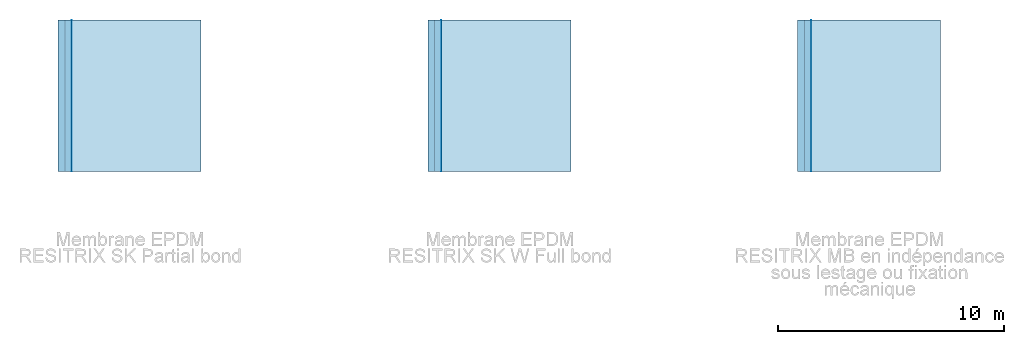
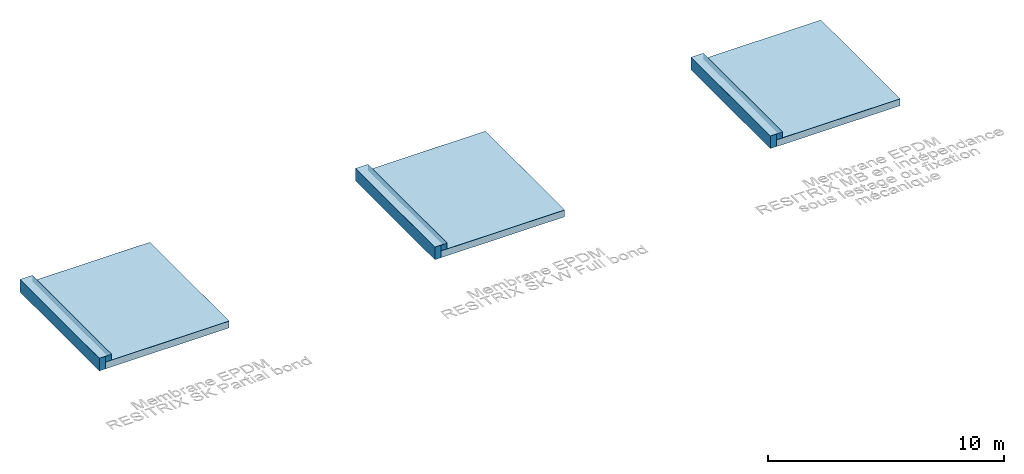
# One storey, incomplete: 15 slabs, 12 walls, 15 elements without a shape of their own.
"""IFC2X3 building model written with IfcOpenShell, lengths in millimetres."""

from ifc_helpers import new_model, entity, si_unit, converted_unit, derived_unit, direction, frame, frame_2d, origin, place, context, subcontext, project, spatial, rectangle, extrude, clip, halfspace, material, layer, layer_set, layer_usage, type_object, element, aggregate, save


model = new_model("IFC2X3")

# Units and contexts
model_context = context("Model", 3, precision=0.01, world=origin(), true_north=direction((6.12303176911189e-17, 1.0)))
body_context = subcontext(model_context, "Body", "Model", "MODEL_VIEW")
ifc_project = project(units=[si_unit("LENGTHUNIT", "METRE", prefix="MILLI"), si_unit("AREAUNIT", "SQUARE_METRE"), si_unit("VOLUMEUNIT", "CUBIC_METRE"), converted_unit("PLANEANGLEUNIT", "DEGREE", entity("IfcRatioMeasure", 0.0174532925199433), si_unit("PLANEANGLEUNIT", "RADIAN"), dimensions=[0, 0, 0, 0, 0, 0, 0]), si_unit("MASSUNIT", "GRAM", prefix="KILO"), derived_unit("MASSDENSITYUNIT", [(si_unit("MASSUNIT", "GRAM", prefix="KILO"), 1), (si_unit("LENGTHUNIT", "METRE"), -3)]), derived_unit("MOMENTOFINERTIAUNIT", [(si_unit("LENGTHUNIT", "METRE"), 4)]), si_unit("TIMEUNIT", "SECOND"), si_unit("FREQUENCYUNIT", "HERTZ"), si_unit("THERMODYNAMICTEMPERATUREUNIT", "DEGREE_CELSIUS"), derived_unit("THERMALTRANSMITTANCEUNIT", [(si_unit("MASSUNIT", "GRAM", prefix="KILO"), 1), (si_unit("THERMODYNAMICTEMPERATUREUNIT", "KELVIN"), -1), (si_unit("TIMEUNIT", "SECOND"), -3)]), derived_unit("VOLUMETRICFLOWRATEUNIT", [(si_unit("LENGTHUNIT", "METRE"), 3), (si_unit("TIMEUNIT", "SECOND"), -1)]), si_unit("ELECTRICCURRENTUNIT", "AMPERE"), si_unit("ELECTRICVOLTAGEUNIT", "VOLT"), si_unit("POWERUNIT", "WATT"), si_unit("FORCEUNIT", "NEWTON", prefix="KILO"), si_unit("ILLUMINANCEUNIT", "LUX"), si_unit("LUMINOUSFLUXUNIT", "LUMEN"), si_unit("LUMINOUSINTENSITYUNIT", "CANDELA"), derived_unit("USERDEFINED", [(si_unit("MASSUNIT", "GRAM", prefix="KILO"), -1), (si_unit("LENGTHUNIT", "METRE"), -2), (si_unit("TIMEUNIT", "SECOND"), 3), (si_unit("LUMINOUSFLUXUNIT", "LUMEN"), 1)]), derived_unit("LINEARVELOCITYUNIT", [(si_unit("LENGTHUNIT", "METRE"), 1), (si_unit("TIMEUNIT", "SECOND"), -1)]), si_unit("PRESSUREUNIT", "PASCAL"), derived_unit("USERDEFINED", [(si_unit("LENGTHUNIT", "METRE"), -2), (si_unit("MASSUNIT", "GRAM", prefix="KILO"), 1), (si_unit("TIMEUNIT", "SECOND"), -2)]), derived_unit("LINEARFORCEUNIT", [(si_unit("MASSUNIT", "GRAM", prefix="KILO"), 1), (si_unit("LENGTHUNIT", "METRE"), 1), (si_unit("TIMEUNIT", "SECOND"), -2), (si_unit("LENGTHUNIT", "METRE"), -1)]), derived_unit("PLANARFORCEUNIT", [(si_unit("MASSUNIT", "GRAM", prefix="KILO"), 1), (si_unit("LENGTHUNIT", "METRE"), 1), (si_unit("TIMEUNIT", "SECOND"), -2), (si_unit("LENGTHUNIT", "METRE"), -2)])], contexts=[model_context])

# Site, building, storey
site_placement = place(None, origin())
site = spatial("IfcSite", under=ifc_project, at=site_placement, Name="Default", CompositionType="ELEMENT")
building_placement = place(site_placement, origin())
building = spatial("IfcBuilding", under=site, at=building_placement, CompositionType="ELEMENT")
storey_placement = place(building_placement, origin())
storey = spatial("IfcBuildingStorey", under=building, at=storey_placement, Name="Niveau 1", CompositionType="ELEMENT", Elevation=0.0)

# Roof, slab
roof_1_placement = place(storey_placement, frame((6837.35536818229, 5160.49131894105, 135.2)))
roof_1 = element("IfcRoof", 1, at=roof_1_placement, inside=storey, Name="Toit de base:Primer d’adhérence FG35", ObjectType="Toit de base:Primer d’adhérence FG35", ShapeType="NOTDEFINED")
ifc_material_1 = material(Name="Primer d’adhérence FG35")
ifc_layer_1 = layer(ifc_material_1, 0.8)
ifc_layer_set_1 = layer_set([ifc_layer_1], Name="Toit de base:Primer d’adhérence FG35")
slab_type_1 = type_object("IfcSlabType", Name="Toit de base:Primer d’adhérence FG35", PredefinedType="ROOF")
slab_1_placement = place(roof_1_placement, origin())
slab_1 = element("IfcSlab", 2, at=slab_1_placement, type_object=slab_type_1, material=ifc_layer_set_1, Name="Toit de base:Primer d’adhérence FG35", ObjectType="Toit de base:Primer d’adhérence FG35", PredefinedType="ROOF", context=body_context, shape_type="SweptSolid", body=[
    extrude(rectangle(XDim=6714.46153846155, YDim=5746.95000000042, at=frame_2d((6.82121026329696e-13, 0.0), x_axis=(0.0, 1.0))), frame((2873.47500000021, 3357.23076923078, 0.0)), (0.0, 0.0, 1.0), 0.800000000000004),
])
aggregate(roof_1, [slab_1])

roof_2_placement = place(storey_placement, frame((6537.35536818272, 5160.49131894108, -215.6)))
roof_2 = element("IfcRoof", 3, at=roof_2_placement, inside=storey, Name="Toit de base:Toit 1", ObjectType="Toit de base:Toit 1", ShapeType="NOTDEFINED")
ifc_material_2 = material(Name="Isolation")
ifc_layer_2 = layer(ifc_material_2, 100.0)
ifc_material_3 = material(Name="Pare vapeur")
ifc_layer_3 = layer(ifc_material_3, 0.8)
ifc_material_4 = material(Name="Béton de pente")
ifc_layer_4 = layer(ifc_material_4, 50.0)
ifc_material_5 = material(Name="Structure porteuse")
ifc_layer_5 = layer(ifc_material_5, 200.0)
ifc_layer_set_2 = layer_set([ifc_layer_2, ifc_layer_3, ifc_layer_4, ifc_layer_5], Name="Toit de base:Toit 1")
slab_type_2 = type_object("IfcSlabType", Name="Toit de base:Toit 1", PredefinedType="ROOF")
slab_2_placement = place(roof_2_placement, origin())
slab_2 = element("IfcSlab", 4, at=slab_2_placement, type_object=slab_type_2, material=ifc_layer_set_2, Name="Toit de base:Toit 1", ObjectType="Toit de base:Toit 1", PredefinedType="ROOF", context=body_context, shape_type="SweptSolid", body=[
    extrude(rectangle(XDim=6046.95, YDim=6714.46153846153, at=frame_2d((-1.13686837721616e-12, 4.54747350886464e-13), x_axis=(1.0, 0.0))), frame((3023.475, 3357.23076923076, 0.0)), (0.0, 0.0, 1.0), 350.8),
])
aggregate(roof_2, [slab_2])

roof_3_placement = place(storey_placement, frame((6237.35536818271, 5160.49131894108, 436.0)))
roof_3 = element("IfcRoof", 5, at=roof_3_placement, inside=storey, Name="Toit de base:Membrane RESITRIX SK W Full bond", ObjectType="Toit de base:Membrane RESITRIX SK W Full bond", ShapeType="NOTDEFINED")
ifc_material_6 = material(Name="Caoutchouc EPDM SK W Full bond")
ifc_layer_6 = layer(ifc_material_6, 1.5)
ifc_material_7 = material(Name="Armature en fibre de verre")
ifc_layer_7 = layer(ifc_material_7, 1.0)
ifc_layer_set_3 = layer_set([ifc_layer_6, ifc_layer_7], Name="Toit de base:Membrane RESITRIX SK W Full bond")
slab_type_3 = type_object("IfcSlabType", Name="Toit de base:Membrane RESITRIX SK W Full bond", PredefinedType="ROOF")
slab_3_placement = place(roof_3_placement, origin())
slab_3 = element("IfcSlab", 6, at=slab_3_placement, type_object=slab_type_3, material=ifc_layer_set_3, Name="Toit de base:Membrane RESITRIX SK W Full bond", ObjectType="Toit de base:Membrane RESITRIX SK W Full bond", PredefinedType="ROOF", context=body_context, shape_type="SweptSolid", body=[
    extrude(rectangle(XDim=6714.46153846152, YDim=603.300000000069, at=frame_2d((0.0, 4.54747350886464e-13), x_axis=(0.0, 1.0))), frame((301.650000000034, 3357.23076923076, 0.0)), (0.0, 0.0, 1.0), 2.49999999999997),
])
aggregate(roof_3, [slab_3])

roof_4_placement = place(storey_placement, frame((6837.35536818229, 5160.49131894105, 136.0)))
roof_4 = element("IfcRoof", 7, at=roof_4_placement, inside=storey, Name="Toit de base:Membrane RESITRIX SK EPDM Partial bond", ObjectType="Toit de base:Membrane RESITRIX SK EPDM Partial bond", ShapeType="NOTDEFINED")
ifc_material_8 = material(Name="Caoutchouc EPDM SK")
ifc_layer_8 = layer(ifc_material_8, 1.5)
ifc_layer_9 = layer(ifc_material_7, 1.0)
ifc_layer_set_4 = layer_set([ifc_layer_8, ifc_layer_9], Name="Toit de base:Membrane RESITRIX SK EPDM Partial bond")
slab_type_4 = type_object("IfcSlabType", Name="Toit de base:Membrane RESITRIX SK EPDM Partial bond", PredefinedType="ROOF")
slab_4_placement = place(roof_4_placement, origin())
slab_4 = element("IfcSlab", 8, at=slab_4_placement, type_object=slab_type_4, material=ifc_layer_set_4, Name="Toit de base:Membrane RESITRIX SK EPDM Partial bond", ObjectType="Toit de base:Membrane RESITRIX SK EPDM Partial bond", PredefinedType="ROOF", context=body_context, shape_type="SweptSolid", body=[
    extrude(rectangle(XDim=6714.46153846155, YDim=5746.95000000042, at=frame_2d((6.82121026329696e-13, 0.0), x_axis=(0.0, 1.0))), frame((2873.47500000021, 3357.23076923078, 0.0)), (0.0, 0.0, 1.0), 2.50000000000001),
])
aggregate(roof_4, [slab_4])

roof_5_placement = place(storey_placement, frame((6237.35536818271, 5160.49131894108, 435.2)))
roof_5 = element("IfcRoof", 9, at=roof_5_placement, inside=storey, Name="Toit de base:Primer d’adhérence FG35", ObjectType="Toit de base:Primer d’adhérence FG35", ShapeType="NOTDEFINED")
slab_type_5 = type_object("IfcSlabType", Name="Toit de base:Primer d’adhérence FG35", PredefinedType="ROOF")
slab_5_placement = place(roof_5_placement, origin())
slab_5 = element("IfcSlab", 10, at=slab_5_placement, type_object=slab_type_5, material=ifc_layer_set_1, Name="Toit de base:Primer d’adhérence FG35", ObjectType="Toit de base:Primer d’adhérence FG35", PredefinedType="ROOF", context=body_context, shape_type="SweptSolid", body=[
    extrude(rectangle(XDim=6714.46153846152, YDim=603.300000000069, at=frame_2d((0.0, 4.54747350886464e-13), x_axis=(0.0, 1.0))), frame((301.650000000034, 3357.23076923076, 0.0)), (0.0, 0.0, 1.0), 0.800000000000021),
])
aggregate(roof_5, [slab_5])

roof_6_placement = place(storey_placement, frame((39627.7553681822, 5160.62545921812, 135.2)))
roof_6 = element("IfcRoof", 11, at=roof_6_placement, inside=storey, Name="Toit de base:Membrane RESITRIX MB EPDM lestée ou fixée méaniquement", ObjectType="Toit de base:Membrane RESITRIX MB EPDM lestée ou fixée méaniquement", ShapeType="NOTDEFINED")
ifc_material_9 = material(Name="Caoutchouc EPDM MB")
ifc_layer_10 = layer(ifc_material_9, 2.1)
ifc_layer_11 = layer(ifc_material_7, 1.0)
ifc_layer_set_5 = layer_set([ifc_layer_10, ifc_layer_11], Name="Toit de base:Membrane RESITRIX MB EPDM lestée ou fixée méaniquement")
slab_type_6 = type_object("IfcSlabType", Name="Toit de base:Membrane RESITRIX MB EPDM lestée ou fixée méaniquement", PredefinedType="ROOF")
slab_6_placement = place(roof_6_placement, origin())
slab_6 = element("IfcSlab", 12, at=slab_6_placement, type_object=slab_type_6, material=ifc_layer_set_5, Name="Toit de base:Membrane RESITRIX MB EPDM lestée ou fixée méaniquement", ObjectType="Toit de base:Membrane RESITRIX MB EPDM lestée ou fixée méaniquement", PredefinedType="ROOF", context=body_context, shape_type="SweptSolid", body=[
    extrude(rectangle(XDim=6714.46153846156, YDim=5746.95000000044, at=frame_2d((0.0, 4.54747350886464e-13), x_axis=(0.0, 1.0))), frame((2873.47500000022, 3357.23076923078, 0.0)), (0.0, 0.0, 1.0), 3.10000000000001),
])
aggregate(roof_6, [slab_6])

roof_7_placement = place(storey_placement, frame((39327.7553681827, 5160.62545921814, -215.6)))
roof_7 = element("IfcRoof", 13, at=roof_7_placement, inside=storey, Name="Toit de base:Toit 1", ObjectType="Toit de base:Toit 1", ShapeType="NOTDEFINED")
slab_type_7 = type_object("IfcSlabType", Name="Toit de base:Toit 1", PredefinedType="ROOF")
slab_7_placement = place(roof_7_placement, origin())
slab_7 = element("IfcSlab", 14, at=slab_7_placement, type_object=slab_type_7, material=ifc_layer_set_2, Name="Toit de base:Toit 1", ObjectType="Toit de base:Toit 1", PredefinedType="ROOF", context=body_context, shape_type="SweptSolid", body=[
    extrude(rectangle(XDim=6046.95, YDim=6714.46153846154, at=frame_2d((4.32009983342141e-12, 0.0), x_axis=(1.0, 0.0))), frame((3023.47499999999, 3357.23076923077, 0.0)), (0.0, 0.0, 1.0), 350.8),
])
aggregate(roof_7, [slab_7])

roof_8_placement = place(storey_placement, frame((39027.7553681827, 5160.49131894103, 436.0)))
roof_8 = element("IfcRoof", 15, at=roof_8_placement, inside=storey, Name="Toit de base:Membrane RESITRIX SK W Full bond", ObjectType="Toit de base:Membrane RESITRIX SK W Full bond", ShapeType="NOTDEFINED")
slab_type_8 = type_object("IfcSlabType", Name="Toit de base:Membrane RESITRIX SK W Full bond", PredefinedType="ROOF")
slab_8_placement = place(roof_8_placement, origin())
slab_8 = element("IfcSlab", 16, at=slab_8_placement, type_object=slab_type_8, material=ifc_layer_set_3, Name="Toit de base:Membrane RESITRIX SK W Full bond", ObjectType="Toit de base:Membrane RESITRIX SK W Full bond", PredefinedType="ROOF", context=body_context, shape_type="SweptSolid", body=[
    extrude(rectangle(XDim=6714.46153846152, YDim=603.300000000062, at=frame_2d((0.0, 4.54747350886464e-13), x_axis=(0.0, 1.0))), frame((301.650000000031, 3357.23076923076, 0.0)), (0.0, 0.0, 1.0), 2.49999999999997),
])
aggregate(roof_8, [slab_8])

roof_9_placement = place(storey_placement, frame((39027.7553681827, 5160.49131894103, 435.2)))
roof_9 = element("IfcRoof", 17, at=roof_9_placement, inside=storey, Name="Toit de base:Primer d’adhérence FG35", ObjectType="Toit de base:Primer d’adhérence FG35", ShapeType="NOTDEFINED")
slab_type_9 = type_object("IfcSlabType", Name="Toit de base:Primer d’adhérence FG35", PredefinedType="ROOF")
slab_9_placement = place(roof_9_placement, origin())
slab_9 = element("IfcSlab", 18, at=slab_9_placement, type_object=slab_type_9, material=ifc_layer_set_1, Name="Toit de base:Primer d’adhérence FG35", ObjectType="Toit de base:Primer d’adhérence FG35", PredefinedType="ROOF", context=body_context, shape_type="SweptSolid", body=[
    extrude(rectangle(XDim=6714.46153846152, YDim=603.300000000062, at=frame_2d((0.0, 4.54747350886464e-13), x_axis=(0.0, 1.0))), frame((301.650000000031, 3357.23076923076, 0.0)), (0.0, 0.0, 1.0), 0.800000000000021),
])
aggregate(roof_9, [slab_9])

roof_10_placement = place(storey_placement, frame((39627.7553681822, 5160.62545921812, 138.3)))
roof_10 = element("IfcRoof", 19, at=roof_10_placement, inside=storey, Name="Toit de base:Lestage (à définir selon client)", ObjectType="Toit de base:Lestage (à définir selon client)", ShapeType="NOTDEFINED")
ifc_material_10 = material(Name="Lestage")
ifc_layer_12 = layer(ifc_material_10, 0.8)
ifc_layer_set_6 = layer_set([ifc_layer_12], Name="Toit de base:Lestage (à définir selon client)")
slab_type_10 = type_object("IfcSlabType", Name="Toit de base:Lestage (à définir selon client)", PredefinedType="ROOF")
slab_10_placement = place(roof_10_placement, origin())
slab_10 = element("IfcSlab", 20, at=slab_10_placement, type_object=slab_type_10, material=ifc_layer_set_6, Name="Toit de base:Lestage (à définir selon client)", ObjectType="Toit de base:Lestage (à définir selon client)", PredefinedType="ROOF", context=body_context, shape_type="SweptSolid", body=[
    extrude(rectangle(XDim=6714.46153846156, YDim=5746.95000000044, at=frame_2d((0.0, 4.54747350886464e-13), x_axis=(0.0, 1.0))), frame((2873.47500000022, 3357.23076923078, 0.0)), (0.0, 0.0, 1.0), 0.799999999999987),
])
aggregate(roof_10, [slab_10])

roof_11_placement = place(storey_placement, frame((23232.5553681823, 5160.491318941, 135.2)))
roof_11 = element("IfcRoof", 21, at=roof_11_placement, inside=storey, Name="Toit de base:Primer d’adhérence FG35", ObjectType="Toit de base:Primer d’adhérence FG35", ShapeType="NOTDEFINED")
slab_type_11 = type_object("IfcSlabType", Name="Toit de base:Primer d’adhérence FG35", PredefinedType="ROOF")
slab_11_placement = place(roof_11_placement, origin())
slab_11 = element("IfcSlab", 22, at=slab_11_placement, type_object=slab_type_11, material=ifc_layer_set_1, Name="Toit de base:Primer d’adhérence FG35", ObjectType="Toit de base:Primer d’adhérence FG35", PredefinedType="ROOF", context=body_context, shape_type="SweptSolid", body=[
    extrude(rectangle(XDim=6714.46153846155, YDim=5746.95000000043, at=frame_2d((2.04636307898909e-12, 0.0), x_axis=(0.0, 1.0))), frame((2873.47500000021, 3357.23076923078, 0.0)), (0.0, 0.0, 1.0), 0.800000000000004),
])
aggregate(roof_11, [slab_11])

roof_12_placement = place(storey_placement, frame((22932.5553681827, 5160.49131894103, -215.6)))
roof_12 = element("IfcRoof", 23, at=roof_12_placement, inside=storey, Name="Toit de base:Toit 1", ObjectType="Toit de base:Toit 1", ShapeType="NOTDEFINED")
slab_type_12 = type_object("IfcSlabType", Name="Toit de base:Toit 1", PredefinedType="ROOF")
slab_12_placement = place(roof_12_placement, origin())
slab_12 = element("IfcSlab", 24, at=slab_12_placement, type_object=slab_type_12, material=ifc_layer_set_2, Name="Toit de base:Toit 1", ObjectType="Toit de base:Toit 1", PredefinedType="ROOF", context=body_context, shape_type="SweptSolid", body=[
    extrude(rectangle(XDim=6046.95, YDim=6714.46153846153, at=frame_2d((-2.27373675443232e-12, 4.54747350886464e-13), x_axis=(1.0, 0.0))), frame((3023.475, 3357.23076923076, 0.0)), (0.0, 0.0, 1.0), 350.8),
])
aggregate(roof_12, [slab_12])

roof_13_placement = place(storey_placement, frame((22632.5553681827, 5160.49131894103, 436.0)))
roof_13 = element("IfcRoof", 25, at=roof_13_placement, inside=storey, Name="Toit de base:Membrane RESITRIX SK W Full bond", ObjectType="Toit de base:Membrane RESITRIX SK W Full bond", ShapeType="NOTDEFINED")
slab_type_13 = type_object("IfcSlabType", Name="Toit de base:Membrane RESITRIX SK W Full bond", PredefinedType="ROOF")
slab_13_placement = place(roof_13_placement, origin())
slab_13 = element("IfcSlab", 26, at=slab_13_placement, type_object=slab_type_13, material=ifc_layer_set_3, Name="Toit de base:Membrane RESITRIX SK W Full bond", ObjectType="Toit de base:Membrane RESITRIX SK W Full bond", PredefinedType="ROOF", context=body_context, shape_type="SweptSolid", body=[
    extrude(rectangle(XDim=6714.46153846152, YDim=603.300000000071, at=frame_2d((0.0, 4.54747350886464e-13), x_axis=(0.0, 1.0))), frame((301.650000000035, 3357.23076923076, 0.0)), (0.0, 0.0, 1.0), 2.49999999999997),
])
aggregate(roof_13, [slab_13])

roof_14_placement = place(storey_placement, frame((23232.5553681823, 5160.491318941, 136.0)))
roof_14 = element("IfcRoof", 27, at=roof_14_placement, inside=storey, Name="Toit de base:Membrane RESITRIX SK W Full bond", ObjectType="Toit de base:Membrane RESITRIX SK W Full bond", ShapeType="NOTDEFINED")
slab_type_14 = type_object("IfcSlabType", Name="Toit de base:Membrane RESITRIX SK W Full bond", PredefinedType="ROOF")
slab_14_placement = place(roof_14_placement, origin())
slab_14 = element("IfcSlab", 28, at=slab_14_placement, type_object=slab_type_14, material=ifc_layer_set_3, Name="Toit de base:Membrane RESITRIX SK W Full bond", ObjectType="Toit de base:Membrane RESITRIX SK W Full bond", PredefinedType="ROOF", context=body_context, shape_type="SweptSolid", body=[
    extrude(rectangle(XDim=6714.46153846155, YDim=5746.95000000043, at=frame_2d((2.04636307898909e-12, 0.0), x_axis=(0.0, 1.0))), frame((2873.47500000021, 3357.23076923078, 0.0)), (0.0, 0.0, 1.0), 2.50000000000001),
])
aggregate(roof_14, [slab_14])

roof_15_placement = place(storey_placement, frame((22632.5553681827, 5160.49131894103, 435.2)))
roof_15 = element("IfcRoof", 29, at=roof_15_placement, inside=storey, Name="Toit de base:Primer d’adhérence FG35", ObjectType="Toit de base:Primer d’adhérence FG35", ShapeType="NOTDEFINED")
slab_type_15 = type_object("IfcSlabType", Name="Toit de base:Primer d’adhérence FG35", PredefinedType="ROOF")
slab_15_placement = place(roof_15_placement, origin())
slab_15 = element("IfcSlab", 30, at=slab_15_placement, type_object=slab_type_15, material=ifc_layer_set_1, Name="Toit de base:Primer d’adhérence FG35", ObjectType="Toit de base:Primer d’adhérence FG35", PredefinedType="ROOF", context=body_context, shape_type="SweptSolid", body=[
    extrude(rectangle(XDim=6714.46153846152, YDim=603.300000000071, at=frame_2d((0.0, 4.54747350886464e-13), x_axis=(0.0, 1.0))), frame((301.650000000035, 3357.23076923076, 0.0)), (0.0, 0.0, 1.0), 0.800000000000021),
])
aggregate(roof_15, [slab_15])

# Walls
ifc_layer_13 = layer(ifc_material_2, 100.0)
ifc_material_11 = material(Name="Maçonnerie ascendante")
ifc_layer_14 = layer(ifc_material_11, 200.0)
ifc_layer_set_7 = layer_set([ifc_layer_13, ifc_layer_14], Name="Mur de base:Mur 1")
ifc_layer_usage_1 = layer_usage(ifc_layer_set_7, "AXIS2", "NEGATIVE", 150.0)
wall_type_1 = type_object("IfcWallType", Name="Mur de base:Mur 1", PredefinedType="STANDARD", material=ifc_layer_set_7)
wall_1_placement = place(storey_placement, frame((6387.35536818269, 11874.9528574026, -215.6), z_axis=(0.0, 0.0, 1.0), x_axis=(0.0, -1.0, 0.0)))
element("IfcWallStandardCase", 31, at=wall_1_placement, inside=storey, type_object=wall_type_1, material=ifc_layer_usage_1, Name="Mur de base:Mur 1", ObjectType="Mur de base:Mur 1", context=body_context, shape_type="SweptSolid", body=[
    extrude(rectangle(XDim=6714.46153846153, YDim=300.000000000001, at=frame_2d((3357.23076923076, 0.0), x_axis=(-1.0, 0.0))), origin(), (0.0, 0.0, 1.0), 650.8),
])
ifc_layer_usage_2 = layer_usage(ifc_layer_set_7, "AXIS2", "NEGATIVE", 150.0)
wall_2_placement = place(storey_placement, frame((6687.3553681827, 11874.9528574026, 135.2), z_axis=(0.0, 0.0, 1.0), x_axis=(0.0, -1.0, 0.0)))
element("IfcWallStandardCase", 32, at=wall_2_placement, inside=storey, type_object=wall_type_1, material=ifc_layer_usage_2, Name="Mur de base:Mur 1", ObjectType="Mur de base:Mur 1", context=body_context, shape_type="Clipping", body=[
    clip(extrude(rectangle(XDim=6714.46153846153, YDim=300.000000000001, at=frame_2d((3357.23076923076, 0.0), x_axis=(-1.0, 0.0))), origin(), (0.0, 0.0, 1.0), 300.0), halfspace(frame((6714.46153846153, -150.0, 0.0), z_axis=(0.0, 0.0, -1.0), x_axis=(0.0, 1.0, 0.0)), False)),
])
ifc_layer_usage_3 = layer_usage(ifc_layer_set_7, "AXIS2", "NEGATIVE", 150.0)
wall_3_placement = place(storey_placement, frame((39177.7553681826, 11875.0869976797, -215.6), z_axis=(0.0, 0.0, 1.0), x_axis=(0.0, -1.0, 0.0)))
element("IfcWallStandardCase", 33, at=wall_3_placement, inside=storey, type_object=wall_type_1, material=ifc_layer_usage_3, Name="Mur de base:Mur 1", ObjectType="Mur de base:Mur 1", context=body_context, shape_type="SweptSolid", body=[
    extrude(rectangle(XDim=6714.46153846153, YDim=300.000000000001, at=frame_2d((3357.23076923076, 2.71427325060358e-12), x_axis=(-1.0, 0.0))), origin(), (0.0, 0.0, 1.0), 650.8),
])
ifc_layer_usage_4 = layer_usage(ifc_layer_set_7, "AXIS2", "NEGATIVE", 150.0)
wall_4_placement = place(storey_placement, frame((39477.7553681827, 11875.0869976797, 135.2), z_axis=(0.0, 0.0, 1.0), x_axis=(0.0, -1.0, 0.0)))
element("IfcWallStandardCase", 34, at=wall_4_placement, inside=storey, type_object=wall_type_1, material=ifc_layer_usage_4, Name="Mur de base:Mur 1", ObjectType="Mur de base:Mur 1", context=body_context, shape_type="Clipping", body=[
    clip(extrude(rectangle(XDim=6714.46153846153, YDim=300.000000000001, at=frame_2d((3357.23076923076, 2.71427325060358e-12), x_axis=(-1.0, 0.0))), origin(), (0.0, 0.0, 1.0), 300.0), halfspace(frame((6714.46153846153, -150.0, 0.0), z_axis=(0.0, 0.0, -1.0), x_axis=(0.0, 1.0, 0.0)), False)),
])
ifc_layer_usage_5 = layer_usage(ifc_layer_set_7, "AXIS2", "NEGATIVE", 150.0)
wall_5_placement = place(storey_placement, frame((22782.5553681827, 11874.9528574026, -215.6), z_axis=(0.0, 0.0, 1.0), x_axis=(0.0, -1.0, 0.0)))
element("IfcWallStandardCase", 35, at=wall_5_placement, inside=storey, type_object=wall_type_1, material=ifc_layer_usage_5, Name="Mur de base:Mur 1", ObjectType="Mur de base:Mur 1", context=body_context, shape_type="SweptSolid", body=[
    extrude(rectangle(XDim=6714.46153846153, YDim=300.000000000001, at=frame_2d((3357.23076923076, -1.62003743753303e-12), x_axis=(-1.0, 0.0))), origin(), (0.0, 0.0, 1.0), 650.8),
])
ifc_layer_usage_6 = layer_usage(ifc_layer_set_7, "AXIS2", "NEGATIVE", 150.0)
wall_6_placement = place(storey_placement, frame((23082.5553681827, 11874.9528574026, 135.2), z_axis=(0.0, 0.0, 1.0), x_axis=(0.0, -1.0, 0.0)))
element("IfcWallStandardCase", 36, at=wall_6_placement, inside=storey, type_object=wall_type_1, material=ifc_layer_usage_6, Name="Mur de base:Mur 1", ObjectType="Mur de base:Mur 1", context=body_context, shape_type="Clipping", body=[
    clip(extrude(rectangle(XDim=6714.46153846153, YDim=300.000000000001, at=frame_2d((3357.23076923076, 5.40012479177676e-13), x_axis=(-1.0, 0.0))), origin(), (0.0, 0.0, 1.0), 300.0), halfspace(frame((6714.46153846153, -150.0, 0.0), z_axis=(0.0, 0.0, -1.0), x_axis=(0.0, 1.0, 0.0)), False)),
])
ifc_layer_15 = layer(ifc_material_6, 1.5)
ifc_layer_16 = layer(ifc_material_7, 1.0)
ifc_layer_set_8 = layer_set([ifc_layer_15, ifc_layer_16], Name="Mur de base:Membrane RESITRIX SK W EPDM Full bond")
ifc_layer_usage_7 = layer_usage(ifc_layer_set_8, "AXIS2", "NEGATIVE", 1.25)
wall_type_2 = type_object("IfcWallType", Name="Mur de base:Membrane RESITRIX SK W EPDM Full bond", PredefinedType="STANDARD", material=ifc_layer_set_8)
wall_7_placement = place(storey_placement, frame((6839.40536818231, 11874.9528574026, 138.5), z_axis=(0.0, 0.0, 1.0), x_axis=(0.0, -1.0, 0.0)))
element("IfcWallStandardCase", 37, at=wall_7_placement, inside=storey, type_object=wall_type_2, material=ifc_layer_usage_7, Name="Mur de base:Membrane RESITRIX SK W EPDM Full bond", ObjectType="Mur de base:Membrane RESITRIX SK W EPDM Full bond", context=body_context, shape_type="SweptSolid", body=[
    extrude(rectangle(XDim=6714.46153846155, YDim=2.49999999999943, at=frame_2d((3357.23076923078, 1.88737914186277e-14), x_axis=(-1.0, 0.0))), origin(), (0.0, 0.0, 1.0), 296.7),
])
ifc_layer_usage_8 = layer_usage(ifc_layer_set_8, "AXIS2", "NEGATIVE", 1.25)
wall_8_placement = place(storey_placement, frame((39629.8053681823, 11874.9528574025, 139.1), z_axis=(0.0, 0.0, 1.0), x_axis=(0.0, -1.0, 0.0)))
element("IfcWallStandardCase", 38, at=wall_8_placement, inside=storey, type_object=wall_type_2, material=ifc_layer_usage_8, Name="Mur de base:Membrane RESITRIX SK W EPDM Full bond", ObjectType="Mur de base:Membrane RESITRIX SK W EPDM Full bond", context=body_context, shape_type="SweptSolid", body=[
    extrude(rectangle(XDim=6714.46153846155, YDim=2.50000000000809, at=frame_2d((3357.23076923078, -2.14683826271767e-12), x_axis=(-1.0, 0.0))), origin(), (0.0, 0.0, 1.0), 296.1),
])
ifc_layer_usage_9 = layer_usage(ifc_layer_set_8, "AXIS2", "NEGATIVE", 1.25)
wall_9_placement = place(storey_placement, frame((23234.6053681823, 11874.9528574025, 138.5), z_axis=(0.0, 0.0, 1.0), x_axis=(0.0, -1.0, 0.0)))
element("IfcWallStandardCase", 39, at=wall_9_placement, inside=storey, type_object=wall_type_2, material=ifc_layer_usage_9, Name="Mur de base:Membrane RESITRIX SK W EPDM Full bond", ObjectType="Mur de base:Membrane RESITRIX SK W EPDM Full bond", context=body_context, shape_type="SweptSolid", body=[
    extrude(rectangle(XDim=6714.46153846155, YDim=2.49999999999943, at=frame_2d((3357.23076923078, 1.88737914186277e-14), x_axis=(-1.0, 0.0))), origin(), (0.0, 0.0, 1.0), 296.7),
])
ifc_layer_17 = layer(ifc_material_1, 0.8)
ifc_layer_set_9 = layer_set([ifc_layer_17], Name="Mur de base:Primer d’adhérence FG35")
ifc_layer_usage_10 = layer_usage(ifc_layer_set_9, "AXIS2", "NEGATIVE", 0.4)
wall_type_3 = type_object("IfcWallType", Name="Mur de base:Primer d’adhérence FG35", PredefinedType="STANDARD", material=ifc_layer_set_9)
wall_10_placement = place(storey_placement, frame((6837.7553681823, 11874.9528574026, 138.5), z_axis=(0.0, 0.0, 1.0), x_axis=(0.0, -1.0, 0.0)))
element("IfcWallStandardCase", 40, at=wall_10_placement, inside=storey, type_object=wall_type_3, material=ifc_layer_usage_10, Name="Mur de base:Primer d’adhérence FG35", ObjectType="Mur de base:Primer d’adhérence FG35", context=body_context, shape_type="SweptSolid", body=[
    extrude(rectangle(XDim=6714.46153846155, YDim=0.799999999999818, at=frame_2d((3357.23076923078, 1.8846035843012e-14), x_axis=(-1.0, 0.0))), origin(), (0.0, 0.0, 1.0), 296.7),
])
ifc_layer_usage_11 = layer_usage(ifc_layer_set_9, "AXIS2", "NEGATIVE", 0.4)
wall_11_placement = place(storey_placement, frame((39628.1553681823, 11874.9528574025, 139.1), z_axis=(0.0, 0.0, 1.0), x_axis=(0.0, -1.0, 0.0)))
element("IfcWallStandardCase", 41, at=wall_11_placement, inside=storey, type_object=wall_type_3, material=ifc_layer_usage_11, Name="Mur de base:Primer d’adhérence FG35", ObjectType="Mur de base:Primer d’adhérence FG35", context=body_context, shape_type="SweptSolid", body=[
    extrude(rectangle(XDim=6714.46153846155, YDim=0.799999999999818, at=frame_2d((3357.23076923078, -2.1468937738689e-12), x_axis=(-1.0, 0.0))), origin(), (0.0, 0.0, 1.0), 296.1),
])
ifc_layer_18 = layer(ifc_material_6, 1.5)
ifc_layer_19 = layer(ifc_material_7, 1.0)
ifc_layer_set_10 = layer_set([ifc_layer_18, ifc_layer_19], Name="Mur de base:Membrane RESITRIX SK W EPDM collée")
ifc_layer_usage_12 = layer_usage(ifc_layer_set_10, "AXIS2", "NEGATIVE", 1.25)
wall_type_4 = type_object("IfcWallType", Name="Mur de base:Membrane RESITRIX SK W EPDM collée", PredefinedType="STANDARD", material=ifc_layer_set_10)
wall_12_placement = place(storey_placement, frame((23232.9553681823, 11874.9528574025, 138.5), z_axis=(0.0, 0.0, 1.0), x_axis=(0.0, -1.0, 0.0)))
element("IfcWallStandardCase", 42, at=wall_12_placement, inside=storey, type_object=wall_type_4, material=ifc_layer_usage_12, Name="Mur de base:Membrane RESITRIX SK W EPDM collée", ObjectType="Mur de base:Membrane RESITRIX SK W EPDM collée", context=body_context, shape_type="SweptSolid", body=[
    extrude(rectangle(XDim=6714.46153846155, YDim=2.49999999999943, at=frame_2d((3357.23076923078, 1.88737914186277e-14), x_axis=(-1.0, 0.0))), origin(), (0.0, 0.0, 1.0), 296.7),
])

save(model, "model.ifc")
